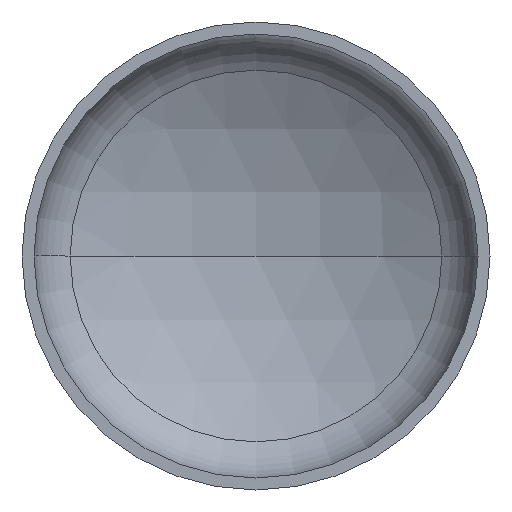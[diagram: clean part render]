
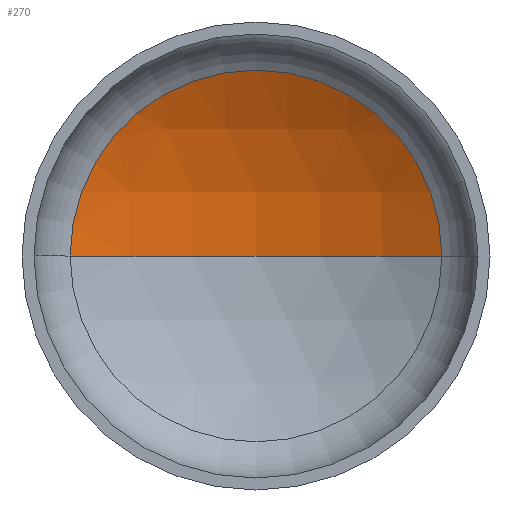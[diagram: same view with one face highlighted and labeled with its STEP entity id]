
A CAD part, front view. The second image highlights one B-rep face of the part: STEP entity #270.
In plain terms, the highlighted spherical face has radius 218 mm.
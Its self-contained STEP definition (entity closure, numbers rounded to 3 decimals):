
#9 = VERTEX_POINT ( 'NONE', #279 ) ;
#13 = EDGE_LOOP ( 'NONE', ( #89, #86, #60 ) ) ;
#22 = DIRECTION ( 'NONE',  ( 0., 0., -1. ) ) ;
#35 = CARTESIAN_POINT ( 'NONE',  ( 0., -127.708, 0. ) ) ;
#45 = VERTEX_POINT ( 'NONE', #294 ) ;
#60 = ORIENTED_EDGE ( 'NONE', *, *, #194, .T. ) ;
#81 = AXIS2_PLACEMENT_3D ( 'NONE', #35, #22, #174 ) ;
#86 = ORIENTED_EDGE ( 'NONE', *, *, #198, .T. ) ;
#89 = ORIENTED_EDGE ( 'NONE', *, *, #200, .F. ) ;
#95 = VERTEX_POINT ( 'NONE', #236 ) ;
#106 = AXIS2_PLACEMENT_3D ( 'NONE', #243, #168, #166 ) ;
#111 = AXIS2_PLACEMENT_3D ( 'NONE', #278, #275, #274 ) ;
#118 = AXIS2_PLACEMENT_3D ( 'NONE', #218, #220, #266 ) ;
#166 = DIRECTION ( 'NONE',  ( 1., 0., 0. ) ) ;
#168 = DIRECTION ( 'NONE',  ( 0., 0., 1. ) ) ;
#173 = CIRCLE ( 'NONE', #106, 218. ) ;
#174 = DIRECTION ( 'NONE',  ( -1., 0., 0. ) ) ;
#184 = CIRCLE ( 'NONE', #118, 108.381 ) ;
#194 = EDGE_CURVE ( 'NONE', #95, #9, #184, .T. ) ;
#198 = EDGE_CURVE ( 'NONE', #45, #95, #304, .T. ) ;
#200 = EDGE_CURVE ( 'NONE', #45, #9, #173, .T. ) ;
#218 = CARTESIAN_POINT ( 'NONE',  ( 0., 61.442, 0. ) ) ;
#220 = DIRECTION ( 'NONE',  ( 0., -1., 0. ) ) ;
#236 = CARTESIAN_POINT ( 'NONE',  ( 108.381, 61.442, 0. ) ) ;
#243 = CARTESIAN_POINT ( 'NONE',  ( 0., -127.708, 0. ) ) ;
#266 = DIRECTION ( 'NONE',  ( 1., 0., 0. ) ) ;
#270 = ADVANCED_FACE ( 'NONE', ( #353 ), #299, .F. ) ;
#274 = DIRECTION ( 'NONE',  ( -1., 0., 0. ) ) ;
#275 = DIRECTION ( 'NONE',  ( 0., 0., -1. ) ) ;
#278 = CARTESIAN_POINT ( 'NONE',  ( 0., -127.708, 0. ) ) ;
#279 = CARTESIAN_POINT ( 'NONE',  ( -108.381, 61.442, 0. ) ) ;
#294 = CARTESIAN_POINT ( 'NONE',  ( 0., 90.292, 0. ) ) ;
#299 = SPHERICAL_SURFACE ( 'NONE', #81, 218. ) ;
#304 = CIRCLE ( 'NONE', #111, 218. ) ;
#353 = FACE_OUTER_BOUND ( 'NONE', #13, .T. ) ;
